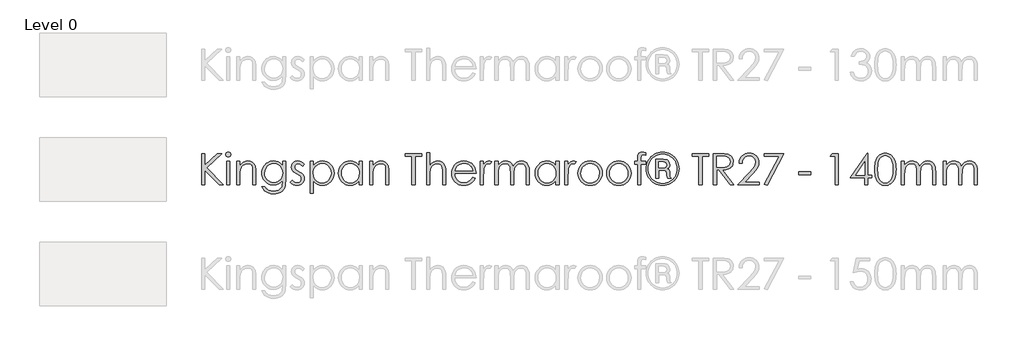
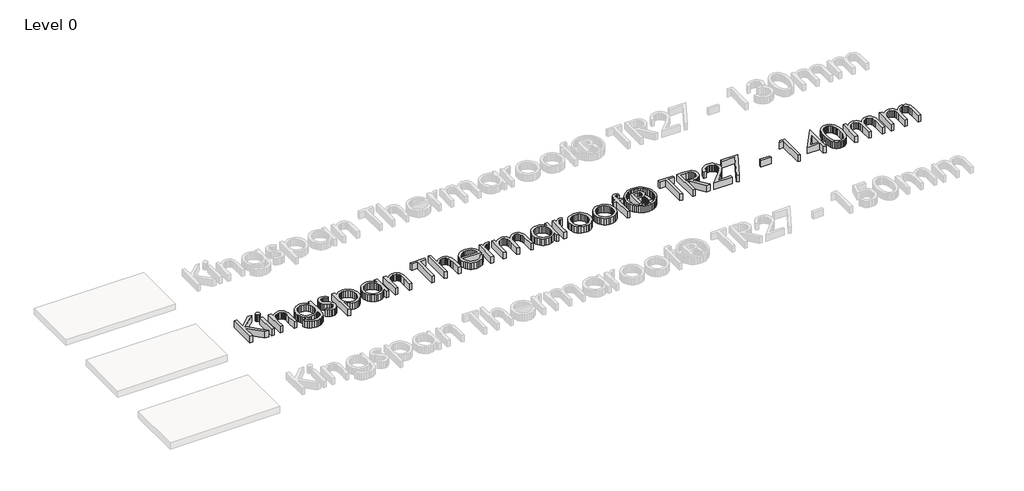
# One storey, part 4 of 12: 1 proxy.
"""IFC4 building model written with IfcOpenShell, lengths in millimetres."""

import ifcopenshell
import ifcopenshell.guid

model = None  # the IFC model being written
_history = None  # IfcOwnerHistory: only IFC2X3 demands one
_inside = {}  # id of a spatial element -> (the spatial element, [elements in it])
_under = {}  # id of a project, library or spatial element -> (it, [spatial elements below it])
_declared = {}  # id of a project -> (the project, [libraries it declares])
_typed = {}  # id of a type object -> (the type object, [elements of that type])
_made_of = {}  # id of a material, layer set ... -> (it, [elements and type objects made of it])


def new_model(schema):
    """Start an empty IFC model of exactly this schema.

    Asked for "IFC4X3", IfcOpenShell would pick the latest addendum, in which some entities
    have other attributes; the version numbers below select the first issue.
    IFC2X3 requires an IfcOwnerHistory on every rooted entity: one is made here for all.
    """
    global model, _history
    if schema == "IFC4X3":
        model = ifcopenshell.file(schema_version=(4, 3, 0, 0))
    else:
        model = ifcopenshell.file(schema=schema)
    _inside.clear()
    _under.clear()
    _declared.clear()
    _typed.clear()
    _made_of.clear()
    _history = None
    if model.schema == "IFC2X3":
        org = make("IfcOrganization", Name="unknown")
        user = make(
            "IfcPersonAndOrganization",
            ThePerson=make("IfcPerson", FamilyName="unknown"),
            TheOrganization=org,
        )
        app = make(
            "IfcApplication",
            ApplicationDeveloper=org,
            Version="unknown",
            ApplicationFullName="unknown",
            ApplicationIdentifier="unknown",
        )
        _history = make(
            "IfcOwnerHistory",
            OwningUser=user,
            OwningApplication=app,
            ChangeAction="ADDED",
            CreationDate=0,
        )
    return model


def make(cls, **values):
    """One entity of the class cls with the attributes given. An attribute that is None is left unset."""
    return model.create_entity(
        cls, **{name: value for name, value in values.items() if value is not None}
    )


def rooted(cls, **values):
    """An entity with a GlobalId (a new one), such as an element, a storey or a relation."""
    return make(cls, GlobalId=ifcopenshell.guid.new(), OwnerHistory=_history, **values)


def si_unit(unit_type, name, prefix=None):
    """IfcSIUnit, for example si_unit("LENGTHUNIT", "METRE", prefix="MILLI")."""
    return make("IfcSIUnit", UnitType=unit_type, Prefix=prefix, Name=name)


def assignment(units):
    """IfcUnitAssignment: the units of a project."""
    return None if units is None else make("IfcUnitAssignment", Units=units)


def point(xyz):
    """IfcCartesianPoint."""
    return None if xyz is None else make("IfcCartesianPoint", Coordinates=xyz)


def direction(xyz):
    """IfcDirection."""
    return None if xyz is None else make("IfcDirection", DirectionRatios=xyz)


def frame(location, z_axis=None, x_axis=None):
    """IfcAxis2Placement3D, a coordinate frame: its origin and axes. An axis left out is left unset."""
    return make(
        "IfcAxis2Placement3D",
        Location=point(location),
        Axis=direction(z_axis),
        RefDirection=direction(x_axis),
    )


def origin():
    """The frame at (0, 0, 0) with its axes left unset."""
    return frame((0.0, 0.0, 0.0))


def origin_with_axes():
    """The frame at (0, 0, 0) with the z axis (0, 0, 1) and the x axis (1, 0, 0) written out."""
    return frame((0.0, 0.0, 0.0), z_axis=(0.0, 0.0, 1.0), x_axis=(1.0, 0.0, 0.0))


def place(relative_to, where):
    """IfcLocalPlacement: puts the frame where relative to a parent placement (None: the world)."""
    return make(
        "IfcLocalPlacement", PlacementRelTo=relative_to, RelativePlacement=where
    )


def context(
    kind, dimensions, precision=None, world=None, true_north=None, identifier=None
):
    """IfcGeometricRepresentationContext, for example the 3D "Model" context."""
    return make(
        "IfcGeometricRepresentationContext",
        ContextIdentifier=identifier,
        ContextType=kind,
        CoordinateSpaceDimension=dimensions,
        Precision=precision,
        WorldCoordinateSystem=world,
        TrueNorth=true_north,
    )


def project(units=None, contexts=None):
    """IfcProject with its units and contexts."""
    return rooted(
        "IfcProject",
        Name="project",
        RepresentationContexts=contexts,
        UnitsInContext=assignment(units),
    )


def spatial(cls, under=None, at=None, **own):
    """A site, building, storey or space (cls), placed at a placement, below another one or the project."""
    s = rooted(cls, ObjectPlacement=at, **own)
    if under is not None:
        _under.setdefault(under.id(), (under, []))[1].append(s)
    return s


def polyline(points):
    """IfcPolyline through the points."""
    return make("IfcPolyline", Points=[point(p) for p in points])


def outline(outer, holes=None, kind="AREA"):
    """IfcArbitraryClosedProfileDef: a profile drawn as a closed curve; with holes, ...WithVoids."""
    if holes is None:
        return make("IfcArbitraryClosedProfileDef", ProfileType=kind, OuterCurve=outer)
    return make(
        "IfcArbitraryProfileDefWithVoids",
        ProfileType=kind,
        OuterCurve=outer,
        InnerCurves=holes,
    )


def extrude(swept, where, along, depth):
    """IfcExtrudedAreaSolid: the profile swept, set in the frame where, extruded along a direction by depth."""
    return make(
        "IfcExtrudedAreaSolid",
        SweptArea=swept,
        Position=where,
        ExtrudedDirection=direction(along),
        Depth=depth,
    )


def shape(context_of_items, identifier, shape_type, items):
    """IfcShapeRepresentation: the items that make up one representation, for example the "Body"."""
    return make(
        "IfcShapeRepresentation",
        ContextOfItems=context_of_items,
        RepresentationIdentifier=identifier,
        RepresentationType=shape_type,
        Items=items,
    )


def made_of(thing, what):
    """Note that an element or type object is made of a material, layer set ...; save() writes the relation."""
    if what is not None:
        _made_of.setdefault(what.id(), (what, []))[1].append(thing)
    return thing


def element(
    cls,
    number,
    at=None,
    inside=None,
    cuts=None,
    type_object=None,
    material=None,
    context=None,
    identifier="Body",
    shape_type=None,
    held_by="IfcProductDefinitionShape",
    body=None,
    shapes=None,
    **own,
):
    """One element of the class cls, such as IfcWall. Its Tag is "e" and its number.

    at: its placement. inside: the storey or other place that contains it. cuts: it is an
    opening in that element (IfcRelVoidsElement). A single representation is given by context,
    identifier, shape_type and body (its items); several are given by shapes. held_by: the class
    of the entity that holds the representations. save() writes the other relations.
    """
    e = rooted(cls, Tag="e%d" % number, ObjectPlacement=at, **own)
    if body is not None:
        shapes = [shape(context, identifier, shape_type, body)]
    if shapes is not None:
        e.Representation = make(held_by, Representations=shapes)
    if inside is not None:
        _inside.setdefault(inside.id(), (inside, []))[1].append(e)
    if cuts is not None:
        rooted(
            "IfcRelVoidsElement", RelatingBuildingElement=cuts, RelatedOpeningElement=e
        )
    if type_object is not None:
        _typed.setdefault(type_object.id(), (type_object, []))[1].append(e)
    return made_of(e, material)


def aggregate(whole, parts):
    """IfcRelAggregates: a whole, such as a stair, and the parts it consists of."""
    return rooted("IfcRelAggregates", RelatingObject=whole, RelatedObjects=parts)


def save(model, path):
    """Write the relations noted so far, then the file.

    IfcRelAggregates (storeys below a building ...), IfcRelContainedInSpatialStructure (elements
    in a storey), IfcRelDefinesByType, IfcRelAssociatesMaterial and IfcRelDeclares: one each for
    every whole, place, type object, material and project.
    """
    for whole, parts in _under.values():
        aggregate(whole, parts)
    for where, things in _inside.values():
        rooted(
            "IfcRelContainedInSpatialStructure",
            RelatedElements=things,
            RelatingStructure=where,
        )
    for kind, things in _typed.values():
        rooted("IfcRelDefinesByType", RelatedObjects=things, RelatingType=kind)
    for what, things in _made_of.values():
        rooted("IfcRelAssociatesMaterial", RelatedObjects=things, RelatingMaterial=what)
    for by, libraries in _declared.values():
        rooted("IfcRelDeclares", RelatingContext=by, RelatedDefinitions=libraries)
    model.write(path)


model = new_model("IFC4")

# Units and contexts
model_context = context("Model", 3, world=origin())
ifc_project = project(units=[si_unit("LENGTHUNIT", "METRE", prefix="MILLI")], contexts=[model_context])

# Site, building, storey
site = spatial("IfcSite", under=ifc_project)
building = spatial("IfcBuilding", under=site)
storey = spatial("IfcBuildingStorey", under=building, Name="Level 0", Elevation=0.0)

# Proxy
placement = place(None, origin())
element("IfcBuildingElementProxy", 1, Name="600mm KI_CenturyGothic", ObjectType="600mm KI_CenturyGothic", at=placement, inside=storey, context=model_context, shape_type="SweptSolid", body=[
    extrude(outline(polyline([(-3852.2663848, -9939.1039085), (-3792.944575, -9939.1039085), (-3792.944575, -10158.3165339), (-3555.1938841, -9939.1039085), (-3471.6181051, -9939.1039085), (-3760.9664119, -10206.0520527), (-3441.9572002, -10532.3220068), (-3520.8984627, -10532.3220068), (-3792.944575, -10254.0965393), (-3792.944575, -10532.3220068), (-3852.2663848, -10532.3220068), (-3852.2663848, -9939.1039085)])), origin_with_axes(), (0.0, 0.0, 1.0), 150.0),
    extrude(outline(polyline([(-3348.1854852, -9909.4430036), (-3329.145347, -9912.7257861), (-3313.1176445, -9922.5741334), (-3302.226531, -9937.0183762), (-3298.5961598, -9954.0888449), (-3302.226531, -9970.9275878), (-3313.1176445, -9985.2945886), (-3329.145347, -9995.1429359), (-3348.1854852, -9998.4257184), (-3366.9938975, -9995.1429359), (-3382.9443581, -9985.2945886), (-3393.8354717, -9970.9275878), (-3397.4658428, -9954.0888449), (-3393.8354717, -9937.0183762), (-3382.9443581, -9922.5741334), (-3366.9938975, -9912.7257861), (-3348.1854852, -9909.4430036)])), origin_with_axes(), (0.0, 0.0, 1.0), 150.0),
    extrude(outline(polyline([(-3377.6919062, -10087.4084331), (-3318.3700964, -10087.4084331), (-3318.3700964, -10532.3220068), (-3377.6919062, -10532.3220068), (-3377.6919062, -10087.4084331)])), origin_with_axes(), (0.0, 0.0, 1.0), 150.0),
    extrude(outline(polyline([(-3189.8395084, -10087.4084331), (-3130.5176986, -10087.4084331), (-3130.5176986, -10166.5041795), (-3096.9946967, -10126.9949273), (-3060.0730495, -10099.3036918), (-3019.7141359, -10082.9670216), (-2975.879335, -10077.5214648), (-2953.4357238, -10079.1000969), (-2932.2955704, -10083.8359934), (-2912.4588747, -10091.7291541), (-2893.9256368, -10102.7795791), (-2877.212412, -10116.5045063), (-2862.835756, -10132.4211736), (-2841.0921499, -10170.8297282), (-2833.6238199, -10195.2092154), (-2828.2892984, -10225.5556426), (-2824.0216812, -10304.1493164), (-2824.0216812, -10532.3220068), (-2883.343491, -10532.3220068), (-2883.343491, -10319.1342527), (-2883.343491, -10216.0935049), (-2884.7290183, -10195.2961126), (-2889.8125035, -10177.2408092), (-2898.2849788, -10161.9275946), (-2910.1464442, -10149.3564689), (-2924.7403432, -10139.5563978), (-2941.4101193, -10132.556347), (-2980.977303, -10126.9563063), (-3005.3471351, -10129.114253), (-3028.4038541, -10135.5880931), (-3050.1474602, -10146.3778266), (-3070.5779533, -10161.4834534), (-3088.6622225, -10179.7656551), (-3103.3671568, -10200.0851129), (-3114.6927562, -10222.4418269), (-3122.6390208, -10246.835797), (-3128.5480292, -10293.9147594), (-3130.5176986, -10368.4146104), (-3130.5176986, -10532.3220068), (-3189.8395084, -10532.3220068), (-3189.8395084, -10087.4084331)])), origin_with_axes(), (0.0, 0.0, 1.0), 150.0),
    extrude(outline(polyline([(-2319.7862977, -10087.4084331), (-2260.4644879, -10087.4084331), (-2260.4644879, -10438.3958079), (-2264.5196897, -10518.6501834), (-2269.588692, -10549.4504069), (-2276.6852953, -10574.0326543), (-2289.9371156, -10602.6459654), (-2307.2924139, -10627.773734), (-2328.7511904, -10649.41596), (-2354.3134448, -10667.5726435), (-2383.3226209, -10681.9348167), (-2415.122162, -10692.1935118), (-2449.7120682, -10698.3487289), (-2487.0923395, -10700.4004679), (-2541.0458345, -10696.3838871), (-2589.206184, -10684.3341444), (-2630.260275, -10665.5064216), (-2662.8949946, -10641.1559001), (-2690.2000204, -10607.8066925), (-2715.2650299, -10561.9829117), (-2655.94322, -10561.9829117), (-2642.4355358, -10583.1520308), (-2627.0933555, -10601.3956115), (-2609.9166791, -10616.7136537), (-2590.9055067, -10629.1061574), (-2569.7894914, -10638.6696751), (-2546.2982864, -10645.5007592), (-2492.1903075, -10650.9656264), (-2438.5071593, -10645.6359326), (-2415.083541, -10638.9738153), (-2393.93856, -10629.646851), (-2359.6624492, -10605.6052972), (-2336.8567664, -10576.1181867), (-2329.3884364, -10557.4787411), (-2324.0539149, -10533.7702931), (-2319.7862977, -10471.1463904), (-2319.7862977, -10448.4372601), (-2354.757586, -10484.2195887), (-2396.6420279, -10510.6170217), (-2443.392712, -10526.8957605), (-2492.9627269, -10532.3220068), (-2522.4063889, -10530.4247516), (-2550.9521133, -10524.7329862), (-2578.5999001, -10515.2467104), (-2605.3497494, -10501.9659244), (-2630.1540674, -10485.4747702), (-2651.9652601, -10466.3573901), (-2670.7833277, -10444.613784), (-2686.6082702, -10420.243952), (-2699.1456025, -10393.9285886), (-2708.1008399, -10366.3483885), (-2713.4739824, -10337.5033515), (-2715.2650299, -10307.3934779), (-2713.3967404, -10277.1049822), (-2707.7918722, -10247.8785632), (-2698.4504251, -10219.7142209), (-2685.3723991, -10192.6119552), (-2668.9971079, -10167.4262552), (-2649.7638648, -10145.0116098), (-2627.67267, -10125.3680189), (-2602.7235235, -10108.4954827), (-2575.9833294, -10094.9443499), (-2548.5189922, -10085.2649693), (-2520.3305117, -10079.4573409), (-2491.4178881, -10077.5214648), (-2444.5320306, -10082.4649489), (-2400.8903346, -10097.2954014), (-2359.6045177, -10123.8666287), (-2319.7862977, -10164.0324375), (-2319.7862977, -10087.4084331)]), holes=[polyline([(-2484.1571458, -10126.9563063), (-2529.0154023, -10132.9811776), (-2570.5908765, -10151.0557916), (-2606.2187212, -10179.7704827), (-2633.2340897, -10217.7155857), (-2650.2659375, -10261.9945277), (-2655.94322, -10309.7107361), (-2653.0080263, -10345.6234105), (-2644.2024452, -10378.2822682), (-2629.5264766, -10407.6873092), (-2608.9801206, -10433.8385334), (-2583.7606272, -10455.2973099), (-2555.0652466, -10470.6250073), (-2522.8939786, -10479.8216258), (-2487.2468234, -10482.8871653), (-2451.3244937, -10479.8457639), (-2419.1001219, -10470.7215597), (-2390.573708, -10455.5145528), (-2365.7452519, -10434.2247431), (-2345.6382095, -10407.9817941), (-2331.2760363, -10377.915369), (-2322.6587323, -10344.0254678), (-2319.7862977, -10306.3120907), (-2325.0773706, -10257.6110476), (-2340.9505892, -10214.3941823), (-2366.4983608, -10178.1677124), (-2400.8130926, -10150.437856), (-2440.9982119, -10132.8266937), (-2484.1571458, -10126.9563063)])]), origin_with_axes(), (0.0, 0.0, 1.0), 150.0),
    extrude(outline(polyline([(-1904.5336289, -10138.6970812), (-1940.9918246, -10176.3911478), (-1962.9575012, -10154.7634047), (-1984.6721416, -10139.3150167), (-2006.1357456, -10130.0459839), (-2027.3483133, -10126.9563063), (-2052.181597, -10131.6294437), (-2073.2300256, -10145.6488558), (-2087.5970264, -10165.886244), (-2092.3860267, -10189.2133099), (-2088.4466878, -10210.7638111), (-2076.628671, -10231.2329251), (-2052.0657341, -10253.4013619), (-2010.2006027, -10279.1229279), (-1958.3326401, -10311.9893733), (-1939.8428507, -10327.8143157), (-1926.315856, -10343.233738), (-1909.9791857, -10375.9070785), (-1904.5336289, -10412.4425161), (-1906.9474396, -10438.5889127), (-1914.1888714, -10462.649777), (-1926.2579245, -10484.6251089), (-1943.1545989, -10504.5149084), (-1963.6719892, -10521.0060626), (-1986.6031901, -10532.7854584), (-2011.9482016, -10539.8530959), (-2039.7070237, -10542.2089751), (-2077.4397114, -10538.3275676), (-2113.3958344, -10526.6833452), (-2145.4512394, -10508.203211), (-2171.4817731, -10483.8140685), (-2135.7959969, -10443.339292), (-2114.0041146, -10464.9670352), (-2091.5749863, -10480.4154232), (-2068.5086121, -10489.684456), (-2044.8049918, -10492.7741336), (-2013.637869, -10487.1354719), (-1987.4914724, -10470.2194871), (-1969.7644472, -10445.6565502), (-1963.8554388, -10417.0770325), (-1967.7561567, -10393.286515), (-1979.4583106, -10372.2767074), (-2005.0253927, -10350.5717222), (-2050.2119275, -10323.7687691), (-2099.762632, -10293.103719), (-2117.441381, -10277.9449883), (-2130.3890611, -10262.9021205), (-2146.3781427, -10230.7694735), (-2151.7078365, -10194.3112779), (-2149.5305794, -10170.2648965), (-2142.9988078, -10148.3330132), (-2132.1125219, -10128.515628), (-2116.8717217, -10110.8127409), (-2098.309518, -10096.2478076), (-2077.4590218, -10085.8442838), (-2054.3202332, -10079.6021695), (-2028.8931521, -10077.5214648), (-1997.9481, -10081.3449408), (-1966.9064954, -10092.8153689), (-1935.7683384, -10111.932749), (-1904.5336289, -10138.6970812)])), origin_with_axes(), (0.0, 0.0, 1.0), 150.0),
    extrude(outline(polyline([(-1795.7769776, -10087.4084331), (-1736.4551678, -10087.4084331), (-1736.4551678, -10168.51247), (-1700.9238754, -10128.2694193), (-1660.4490989, -10099.9216274), (-1614.9922173, -10083.1215054), (-1564.5146096, -10077.5214648), (-1520.0618732, -10081.7601162), (-1478.9305402, -10094.4760706), (-1441.1206107, -10115.6693278), (-1406.6320845, -10145.339888), (-1377.9077381, -10180.977388), (-1357.3903478, -10220.0714648), (-1345.0799137, -10262.6221185), (-1340.9764356, -10308.6293489), (-1345.0412927, -10355.5296893), (-1357.235864, -10398.7513822), (-1377.5601494, -10438.2944278), (-1406.014149, -10474.158826), (-1440.2130179, -10503.9307662), (-1477.7719111, -10525.1964378), (-1518.6908288, -10537.9558408), (-1562.9697708, -10542.2089751), (-1612.6170277, -10536.7441078), (-1658.0545988, -10520.3495061), (-1699.3211052, -10493.1024118), (-1736.4551678, -10455.0800669), (-1736.4551678, -10690.5134996), (-1795.7769776, -10690.5134996), (-1795.7769776, -10087.4084331)]), holes=[polyline([(-1568.5311905, -10126.9563063), (-1602.5852307, -10130.2535716), (-1633.8392507, -10140.1453675), (-1662.2932503, -10156.6316941), (-1687.9472295, -10179.7125512), (-1709.1694525, -10207.6982716), (-1724.3281832, -10238.8991877), (-1733.4234216, -10273.3152995), (-1736.4551678, -10310.9466071), (-1731.048232, -10359.8021341), (-1714.8274246, -10403.4824511), (-1688.5265441, -10440.3268564), (-1652.8793888, -10468.6746483), (-1611.4390881, -10486.7492622), (-1567.7587711, -10492.7741336), (-1525.0632888, -10486.7106413), (-1485.0326535, -10468.5201644), (-1450.2544701, -10439.4192636), (-1423.3163435, -10400.6244993), (-1406.05277, -10355.9593476), (-1400.2982454, -10309.2472844), (-1405.9948385, -10262.3034955), (-1423.0846177, -10217.8700695), (-1449.8103289, -10179.5194464), (-1484.414718, -10150.8240657), (-1524.7157001, -10132.9232462), (-1568.5311905, -10126.9563063)])]), origin_with_axes(), (0.0, 0.0, 1.0), 150.0),
    extrude(outline(polyline([(-807.0801472, -10087.4084331), (-807.0801472, -10532.3220068), (-866.401957, -10532.3220068), (-866.401957, -10456.4704218), (-903.4780882, -10494.3189724), (-944.8797679, -10521.0446836), (-990.4525125, -10536.9179022), (-1040.0418379, -10542.2089751), (-1084.3159523, -10537.9558408), (-1125.2203871, -10525.1964378), (-1162.7551422, -10503.9307662), (-1196.9202178, -10474.158826), (-1225.340424, -10438.2944278), (-1245.6405713, -10398.7513822), (-1257.8206597, -10355.5296893), (-1261.8806892, -10308.6293489), (-1257.7820388, -10262.6221185), (-1245.4860875, -10220.0714648), (-1224.9928353, -10180.977388), (-1196.3022822, -10145.339888), (-1161.8475494, -10115.6693278), (-1124.061758, -10094.4760706), (-1082.9449079, -10081.7601162), (-1038.4969991, -10077.5214648), (-987.7490446, -10083.1215054), (-942.0990581, -10099.9216274), (-921.2051134, -10112.608616), (-901.6242816, -10128.2694193), (-866.401957, -10168.51247), (-866.401957, -10087.4084331), (-807.0801472, -10087.4084331)]), holes=[polyline([(-1034.3259343, -10126.9563063), (-1078.1414247, -10132.9232462), (-1118.4424068, -10150.8240657), (-1153.0467959, -10179.5194464), (-1179.7725071, -10217.8700695), (-1196.8622863, -10262.3034955), (-1202.5588794, -10309.2472844), (-1196.8043548, -10355.9593476), (-1179.5407813, -10400.6244993), (-1152.6026548, -10439.4192636), (-1117.8244713, -10468.5201644), (-1077.6779731, -10486.7106413), (-1034.6349021, -10492.7741336), (-991.0125165, -10486.7492622), (-949.7460102, -10468.6746483), (-914.2726493, -10440.3268564), (-888.0297002, -10403.4824511), (-871.8088928, -10359.8021341), (-866.401957, -10310.9466071), (-869.4337032, -10273.3152995), (-878.5289416, -10238.8991877), (-893.6876723, -10207.6982716), (-914.9098953, -10179.7125512), (-940.5638746, -10156.6316941), (-969.0178742, -10140.1453675), (-1000.2718941, -10130.2535716), (-1034.3259343, -10126.9563063)])]), origin_with_axes(), (0.0, 0.0, 1.0), 150.0),
    extrude(outline(polyline([(-668.662591, -10087.4084331), (-609.3407811, -10087.4084331), (-609.3407811, -10166.5041795), (-575.8177792, -10126.9949273), (-538.896132, -10099.3036918), (-498.5372184, -10082.9670216), (-454.7024175, -10077.5214648), (-432.2588064, -10079.1000969), (-411.1186529, -10083.8359934), (-391.2819572, -10091.7291541), (-372.7487193, -10102.7795791), (-356.0354946, -10116.5045063), (-341.6588385, -10132.4211736), (-319.9152324, -10170.8297282), (-312.4469024, -10195.2092154), (-307.1123809, -10225.5556426), (-302.8447637, -10304.1493164), (-302.8447637, -10532.3220068), (-362.1665735, -10532.3220068), (-362.1665735, -10319.1342527), (-362.1665735, -10216.0935049), (-363.5521008, -10195.2961126), (-368.635586, -10177.2408092), (-377.1080613, -10161.9275946), (-388.9695267, -10149.3564689), (-403.5634257, -10139.5563978), (-420.2332018, -10132.556347), (-459.8003855, -10126.9563063), (-484.1702176, -10129.114253), (-507.2269366, -10135.5880931), (-528.9705427, -10146.3778266), (-549.4010358, -10161.4834534), (-567.485305, -10179.7656551), (-582.1902393, -10200.0851129), (-593.5158387, -10222.4418269), (-601.4621033, -10246.835797), (-607.3711117, -10293.9147594), (-609.3407811, -10368.4146104), (-609.3407811, -10532.3220068), (-668.662591, -10532.3220068), (-668.662591, -10087.4084331)])), origin_with_axes(), (0.0, 0.0, 1.0), 150.0),
    extrude(outline(polyline([(3.6512537, -9988.5387501), (3.6512537, -9939.1039085), (320.0342394, -9939.1039085), (320.0342394, -9988.5387501), (191.5036515, -9988.5387501), (191.5036515, -10532.3220068), (132.1818417, -10532.3220068), (132.1818417, -9988.5387501), (3.6512537, -9988.5387501)])), origin_with_axes(), (0.0, 0.0, 1.0), 150.0),
    extrude(outline(polyline([(409.0169542, -9919.3299719), (468.338764, -9919.3299719), (468.338764, -10168.0490183), (502.1128022, -10128.3466612), (539.1696229, -10100.0761112), (579.470605, -10083.1601264), (622.9771276, -10077.5214648), (645.4207388, -10079.1000969), (666.5608922, -10083.8359934), (686.3975879, -10091.7291541), (704.9308258, -10102.7795791), (721.6440506, -10116.4900235), (736.0207066, -10132.3632421), (757.7643127, -10170.5980023), (765.2326428, -10194.9050753), (770.5671642, -10225.2659853), (774.8347814, -10304.1493164), (774.8347814, -10532.3220068), (715.5129716, -10532.3220068), (715.5129716, -10319.1342527), (714.1226167, -10254.7530958), (709.9515519, -10216.0935049), (696.4342124, -10177.2408092), (686.7210385, -10161.9275946), (675.0381951, -10149.3564689), (661.3953375, -10139.5563978), (645.8021209, -10132.556347), (608.7646107, -10126.9563063), (585.8961689, -10129.114253), (564.2539428, -10135.5880931), (543.8379326, -10146.3778266), (524.6481382, -10161.4834534), (507.659739, -10179.7656551), (493.8479146, -10200.0851129), (483.212665, -10222.4418269), (475.7539902, -10246.835797), (470.1925705, -10293.6830335), (468.338764, -10368.4146104), (468.338764, -10532.3220068), (409.0169542, -10532.3220068), (409.0169542, -9919.3299719)])), origin_with_axes(), (0.0, 0.0, 1.0), 150.0),
    extrude(outline(polyline([(1280.6150037, -10384.0174822), (1328.5050064, -10409.1983546), (1302.8799929, -10451.0827965), (1273.5859872, -10484.0457944), (1240.5071264, -10509.1301143), (1203.5275477, -10527.3785226), (1162.048626, -10538.501362), (1115.4717363, -10542.2089751), (1063.9803281, -10537.7772188), (1018.4172388, -10524.4819499), (978.7824684, -10502.3231684), (945.0760169, -10471.3008743), (918.1765113, -10434.69785), (898.9625788, -10395.796878), (887.4342193, -10354.5979584), (883.5914328, -10311.101091), (886.8742152, -10270.2207943), (896.7225625, -10231.6191348), (913.1364748, -10195.2961126), (936.1159519, -10161.2517276), (972.3038007, -10124.6197376), (1014.1303111, -10098.4540305), (1061.5954832, -10082.7546062), (1114.6993169, -10077.5214648), (1169.3479893, -10082.8897796), (1218.2035163, -10098.9947241), (1261.2658978, -10125.8362982), (1298.5351338, -10163.4145019), (1320.008393, -10195.5857699), (1335.456781, -10231.5418929), (1344.8802977, -10271.282871), (1348.278943, -10314.8087041), (942.9132426, -10314.8087041), (946.6498214, -10352.0634572), (956.1602353, -10385.8133573), (971.4444841, -10416.0584044), (992.502568, -10442.7985985), (1017.86689, -10464.6628951), (1046.0698533, -10480.2802498), (1077.1114579, -10489.6506626), (1110.9917037, -10492.7741336), (1144.5147056, -10489.7616979), (1177.1108043, -10480.7243909), (1206.8489511, -10466.6856684), (1231.7980977, -10448.6689859), (1255.2796474, -10422.5032788), (1280.6150037, -10384.0174822)]), holes=[polyline([(1288.9571332, -10265.3738626), (1274.5322009, -10222.8521747), (1254.7389538, -10189.8312454), (1228.6311782, -10164.3027842), (1195.2626601, -10144.2585008), (1157.3175572, -10131.2818549), (1117.4800267, -10126.9563063), (1085.0577224, -10129.6694295), (1054.9912973, -10137.8087989), (1027.2807514, -10151.3744146), (1001.9260846, -10170.3662765), (985.3866543, -10188.1801989), (970.9906877, -10209.9527707), (958.738185, -10235.6839919), (948.6291461, -10265.3738626), (1288.9571332, -10265.3738626)])]), origin_with_axes(), (0.0, 0.0, 1.0), 150.0),
    extrude(outline(polyline([(1427.3746895, -10087.4084331), (1486.6964993, -10087.4084331), (1486.6964993, -10151.828211), (1512.2442709, -10118.7879712), (1539.1437765, -10095.6733207), (1567.317774, -10082.0594288), (1596.6890217, -10077.5214648), (1620.0160875, -10081.3063198), (1644.8879922, -10092.660885), (1615.3815711, -10134.6805003), (1586.8020534, -10126.9563063), (1560.3853099, -10132.9039357), (1534.8954698, -10150.7468238), (1512.8428959, -10181.1029062), (1496.7379515, -10224.5901183), (1489.2068623, -10282.7146781), (1486.6964993, -10380.1553852), (1486.6964993, -10532.3220068), (1427.3746895, -10532.3220068), (1427.3746895, -10087.4084331)])), origin_with_axes(), (0.0, 0.0, 1.0), 150.0),
    extrude(outline(polyline([(1704.209802, -10087.4084331), (1763.5316118, -10087.4084331), (1763.5316118, -10163.5689858), (1793.1152748, -10127.0721692), (1823.4713571, -10101.9299178), (1866.8813274, -10083.623578), (1912.4540719, -10077.5214648), (1943.2929164, -10080.6690738), (1972.4710592, -10090.111901), (1998.2312461, -10104.7878696), (2018.8162231, -10123.6349029), (2035.5970345, -10149.0668116), (2049.9447249, -10183.4974063), (2064.7220735, -10159.0986085), (2081.247021, -10137.8087989), (2099.5195674, -10119.6279773), (2119.5397127, -10104.5561437), (2140.83435, -10092.7284717), (2162.9303724, -10084.2801345), (2185.82778, -10079.2111322), (2209.5265726, -10077.5214648), (2251.8551557, -10083.3339208), (2271.0497777, -10090.5994907), (2288.9312868, -10100.7712887), (2305.0458865, -10113.5403469), (2318.9397805, -10128.5976975), (2340.065451, -10165.5772763), (2347.3648143, -10188.9526183), (2352.5786453, -10217.5224808), (2356.74971, -10290.2457672), (2356.74971, -10532.3220068), (2297.4279002, -10532.3220068), (2297.4279002, -10286.692638), (2294.9754686, -10225.574953), (2287.6181738, -10187.1277775), (2274.3132497, -10162.661393), (2254.01793, -10143.4860814), (2227.9487753, -10131.0887501), (2197.3223461, -10126.9563063), (2177.6739277, -10128.5059727), (2158.894481, -10133.154972), (2123.9425033, -10151.750969), (2095.2085016, -10180.697386), (2075.434565, -10217.9473115), (2068.743482, -10242.1047282), (2063.9641369, -10273.1752985), (2060.1406609, -10356.0559), (2060.1406609, -10532.3220068), (2000.8188511, -10532.3220068), (2000.8188511, -10301.9865421), (1998.4050405, -10233.5308729), (1991.1636086, -10191.2988422), (1977.9166159, -10165.0558932), (1957.4861228, -10144.5674686), (1931.1659318, -10131.3590969), (1900.2498454, -10126.9563063), (1863.3088876, -10133.0004881), (1828.801051, -10151.1330335), (1799.8353235, -10179.5001359), (1779.5206934, -10216.2479888), (1767.5288822, -10268.0773305), (1763.5316118, -10341.6888992), (1763.5316118, -10532.3220068), (1704.209802, -10532.3220068), (1704.209802, -10087.4084331)])), origin_with_axes(), (0.0, 0.0, 1.0), 150.0),
    extrude(outline(polyline([(2920.3069034, -10087.4084331), (2920.3069034, -10532.3220068), (2860.9850935, -10532.3220068), (2860.9850935, -10456.4704218), (2823.9089624, -10494.3189724), (2782.5072826, -10521.0446836), (2736.9345381, -10536.9179022), (2687.3452127, -10542.2089751), (2643.0710983, -10537.9558408), (2602.1666635, -10525.1964378), (2564.6319083, -10503.9307662), (2530.4668328, -10474.158826), (2502.0466266, -10438.2944278), (2481.7464792, -10398.7513822), (2469.5663908, -10355.5296893), (2465.5063614, -10308.6293489), (2469.6050118, -10262.6221185), (2481.9009631, -10220.0714648), (2502.3942153, -10180.977388), (2531.0847683, -10145.339888), (2565.5395011, -10115.6693278), (2603.3252926, -10094.4760706), (2644.4421427, -10081.7601162), (2688.8900515, -10077.5214648), (2739.638006, -10083.1215054), (2785.2879925, -10099.9216274), (2806.1819372, -10112.608616), (2825.7627689, -10128.2694193), (2860.9850935, -10168.51247), (2860.9850935, -10087.4084331), (2920.3069034, -10087.4084331)]), holes=[polyline([(2693.0611162, -10126.9563063), (2649.2456259, -10132.9232462), (2608.9446437, -10150.8240657), (2574.3402547, -10179.5194464), (2547.6145435, -10217.8700695), (2530.5247643, -10262.3034955), (2524.8281712, -10309.2472844), (2530.5826957, -10355.9593476), (2547.8462693, -10400.6244993), (2574.7843958, -10439.4192636), (2609.5625792, -10468.5201644), (2649.7090775, -10486.7106413), (2692.7521485, -10492.7741336), (2736.374534, -10486.7492622), (2777.6410404, -10468.6746483), (2813.1144013, -10440.3268564), (2839.3573504, -10403.4824511), (2855.5781577, -10359.8021341), (2860.9850935, -10310.9466071), (2857.9533474, -10273.3152995), (2848.858109, -10238.8991877), (2833.6993783, -10207.6982716), (2812.4771553, -10179.7125512), (2786.823176, -10156.6316941), (2758.3691764, -10140.1453675), (2727.1151565, -10130.2535716), (2693.0611162, -10126.9563063)])]), origin_with_axes(), (0.0, 0.0, 1.0), 150.0),
    extrude(outline(polyline([(3029.0635547, -10087.4084331), (3088.3853645, -10087.4084331), (3088.3853645, -10151.828211), (3113.9331361, -10118.7879712), (3140.8326417, -10095.6733207), (3169.0066393, -10082.0594288), (3198.3778869, -10077.5214648), (3221.7049527, -10081.3063198), (3246.5768574, -10092.660885), (3217.0704364, -10134.6805003), (3188.4909186, -10126.9563063), (3162.0741752, -10132.9039357), (3136.584335, -10150.7468238), (3114.5317612, -10181.1029062), (3098.4268167, -10224.5901183), (3090.8957276, -10282.7146781), (3088.3853645, -10380.1553852), (3088.3853645, -10532.3220068), (3029.0635547, -10532.3220068), (3029.0635547, -10087.4084331)])), origin_with_axes(), (0.0, 0.0, 1.0), 150.0),
    extrude(outline(polyline([(3508.7360013, -10077.5214648), (3558.0453247, -10082.1463259), (3602.932547, -10096.0209094), (3643.3976682, -10119.1452151), (3679.4406884, -10151.5192432), (3706.340194, -10186.751223), (3725.5541265, -10225.0921909), (3737.0824861, -10266.5421469), (3740.9252726, -10311.101091), (3736.8604155, -10355.915899), (3724.6658442, -10397.824479), (3704.3415588, -10436.826831), (3675.8875592, -10472.922955), (3641.0514443, -10503.2355888), (3601.580813, -10524.8874701), (3557.4756654, -10537.8785988), (3508.7360013, -10542.2089751), (3459.8611639, -10537.8785988), (3415.6594638, -10524.8874701), (3376.130901, -10503.2355888), (3341.2754757, -10472.922955), (3312.8214761, -10436.826831), (3292.4971906, -10397.824479), (3280.3026194, -10355.915899), (3276.2377623, -10311.101091), (3280.0805488, -10266.7352518), (3291.6089083, -10225.4011587), (3310.8228409, -10187.0988117), (3337.7223464, -10151.828211), (3373.7846771, -10119.3190095), (3414.3077298, -10096.0981513), (3459.2915046, -10082.1656364), (3508.7360013, -10077.5214648)]), holes=[polyline([(3508.5815174, -10126.9563063), (3474.3054066, -10130.3308136), (3442.5396588, -10140.4543353), (3413.2842741, -10157.3268715), (3386.5392524, -10180.9484223), (3364.2356423, -10209.3589733), (3348.3044922, -10240.5985104), (3338.7458021, -10274.6670335), (3335.5595721, -10311.5645426), (3341.3720281, -10359.3000615), (3358.809396, -10403.6369349), (3386.1530427, -10441.427554), (3421.6843351, -10469.5243097), (3463.2211882, -10486.9616776), (3508.5815174, -10492.7741336), (3553.9418466, -10486.9616776), (3595.4786998, -10469.5243097), (3631.0099921, -10441.427554), (3658.3536389, -10403.6369349), (3675.7910068, -10359.3000615), (3681.6034628, -10311.5645426), (3678.4027499, -10274.6670335), (3668.8006112, -10240.5985104), (3652.7970468, -10209.3589733), (3630.3920566, -10180.9484223), (3603.5746206, -10157.3268715), (3574.3337188, -10140.4543353), (3542.669351, -10130.3308136), (3508.5815174, -10126.9563063)])]), origin_with_axes(), (0.0, 0.0, 1.0), 150.0),
    extrude(outline(polyline([(4052.519258, -10077.5214648), (4101.8285814, -10082.1463259), (4146.7158037, -10096.0209094), (4187.180925, -10119.1452151), (4223.2239452, -10151.5192432), (4250.1234507, -10186.751223), (4269.3373833, -10225.0921909), (4280.8657428, -10266.5421469), (4284.7085293, -10311.101091), (4280.6436722, -10355.915899), (4268.4491009, -10397.824479), (4248.1248155, -10436.826831), (4219.6708159, -10472.922955), (4184.834701, -10503.2355888), (4145.3640698, -10524.8874701), (4101.2589221, -10537.8785988), (4052.519258, -10542.2089751), (4003.6444206, -10537.8785988), (3959.4427205, -10524.8874701), (3919.9141578, -10503.2355888), (3885.0587324, -10472.922955), (3856.6047328, -10436.826831), (3836.2804474, -10397.824479), (3824.0858761, -10355.915899), (3820.021019, -10311.101091), (3823.8638055, -10266.7352518), (3835.392165, -10225.4011587), (3854.6060976, -10187.0988117), (3881.5056031, -10151.828211), (3917.5679338, -10119.3190095), (3958.0909865, -10096.0981513), (4003.0747613, -10082.1656364), (4052.519258, -10077.5214648)]), holes=[polyline([(4052.3647741, -10126.9563063), (4018.0886633, -10130.3308136), (3986.3229156, -10140.4543353), (3957.0675308, -10157.3268715), (3930.3225091, -10180.9484223), (3908.018899, -10209.3589733), (3892.0877489, -10240.5985104), (3882.5290589, -10274.6670335), (3879.3428288, -10311.5645426), (3885.1552848, -10359.3000615), (3902.5926527, -10403.6369349), (3929.9362994, -10441.427554), (3965.4675918, -10469.5243097), (4007.004445, -10486.9616776), (4052.3647741, -10492.7741336), (4097.7251033, -10486.9616776), (4139.2619565, -10469.5243097), (4174.7932489, -10441.427554), (4202.1368956, -10403.6369349), (4219.5742635, -10359.3000615), (4225.3867195, -10311.5645426), (4222.1860066, -10274.6670335), (4212.5838679, -10240.5985104), (4196.5803035, -10209.3589733), (4174.1753133, -10180.9484223), (4147.3578773, -10157.3268715), (4118.1169755, -10140.4543353), (4086.4526077, -10130.3308136), (4052.3647741, -10126.9563063)])]), origin_with_axes(), (0.0, 0.0, 1.0), 150.0),
    extrude(outline(polyline([(4561.5436418, -9920.7203268), (4561.5436418, -9972.3179427), (4535.2813822, -9962.2378695), (4513.0357036, -9958.8778451), (4499.3059487, -9960.5578573), (4488.086557, -9965.5978939), (4479.9761533, -9972.8200153), (4475.5733627, -9981.0462819), (4473.0243787, -10027.6231716), (4473.0243787, -10087.4084331), (4561.5436418, -10087.4084331), (4561.5436418, -10136.8432746), (4472.8698948, -10136.8432746), (4472.8698948, -10532.3220068), (4413.2391172, -10532.3220068), (4413.2391172, -10136.8432746), (4353.9173074, -10136.8432746), (4353.9173074, -10087.4084331), (4413.2391172, -10087.4084331), (4413.2391172, -10019.8989776), (4415.3246496, -9980.0614472), (4421.5812467, -9953.5481513), (4432.8392595, -9935.6280212), (4449.9290387, -9921.5699882), (4472.000923, -9912.4747498), (4498.2052511, -9909.4430036), (4527.2482205, -9912.2623344), (4561.5436418, -9920.7203268)])), origin_with_axes(), (0.0, 0.0, 1.0), 150.0),
    extrude(outline(polyline([(5194.3096132, -10225.2080538), (5191.7075254, -10267.1504272), (5183.9012619, -10307.5479617), (5170.8908226, -10346.4006575), (5152.6762077, -10383.7085145), (5129.9284564, -10418.3466969), (5103.3186081, -10449.190369), (5072.8466628, -10476.2395308), (5038.5126205, -10499.4941823), (5001.5958009, -10518.1819042), (4963.3755235, -10531.5302769), (4923.8517884, -10539.5393005), (4883.0245956, -10542.2089751), (4842.2649894, -10539.5537834), (4802.7895305, -10531.5882083), (4764.5982189, -10518.3122499), (4727.6910545, -10499.7259081), (4693.3425293, -10476.5581538), (4662.8271355, -10449.5379577), (4636.1448729, -10418.6653199), (4613.2957415, -10383.9402403), (4594.9797465, -10346.6372109), (4581.896893, -10308.0307239), (4574.0471808, -10268.1207791), (4571.4306101, -10226.9073765), (4574.0471808, -10185.2401776), (4581.896893, -10144.8957468), (4594.9797465, -10105.8740843), (4613.2957415, -10068.1751901), (4636.13039, -10033.1218322), (4662.769204, -10002.0367791), (4693.2121836, -9974.9200305), (4727.4593286, -9951.7715867), (4764.2940787, -9933.2528316), (4802.4998732, -9920.0251494), (4842.0767122, -9912.0885401), (4883.0245956, -9909.4430036), (4923.9531684, -9912.0740572), (4963.4720759, -9919.9672179), (5001.581318, -9933.1224858), (5038.2808947, -9951.5398609), (5072.4025216, -9974.5869247), (5102.7779145, -10001.6312589), (5129.4070733, -10032.6728635), (5152.289998, -10067.7117384), (5170.6735796, -10105.3333908), (5183.8047094, -10144.1233275), (5191.6833873, -10184.0815485), (5194.3096132, -10225.2080538)]), holes=[polyline([(5154.76174, -10225.8259894), (5152.4782752, -10189.6815891), (5145.6278806, -10154.6282313), (5134.2105564, -10120.6659158), (5118.2263025, -10087.7946428), (5098.3220201, -10057.1923517), (5075.1446105, -10030.0369823), (5048.6940737, -10006.3285343), (5018.9704097, -9986.067008), (4987.0115571, -9969.8462006), (4953.8554544, -9958.2599096), (4919.5021017, -9951.308135), (4883.9514988, -9948.9908768), (4848.1353768, -9951.308135), (4813.4489182, -9958.2599096), (4779.892123, -9969.8462006), (4747.4649911, -9986.067008), (4717.3116688, -10006.3285343), (4690.5763024, -10030.0369823), (4667.2588918, -10057.1923517), (4647.359437, -10087.7946428), (4631.4427698, -10120.714192), (4620.0737217, -10154.8213361), (4613.2522929, -10190.116075), (4610.9784833, -10226.5984088), (4613.2522929, -10262.9069481), (4620.0737217, -10297.9892717), (4631.4427698, -10331.8453795), (4647.359437, -10364.4752714), (4667.268547, -10394.8072157), (4690.6149233, -10421.7694803), (4717.398566, -10445.3620653), (4747.619475, -10465.5849707), (4780.0948831, -10481.8057781), (4813.6420231, -10493.3920691), (4848.260895, -10500.3438437), (4883.9514988, -10502.6611019), (4919.3234797, -10500.3293608), (4953.6044181, -10493.3341376), (4986.7943142, -10481.6754323), (5018.8931678, -10465.3532449), (5048.7761433, -10445.0434423), (5075.3184049, -10421.4218916), (5098.5199526, -10394.4885927), (5118.3807864, -10364.2435456), (5134.2974536, -10331.6667575), (5145.6665016, -10297.7382354), (5152.4879304, -10262.4579793), (5154.76174, -10225.8259894)])]), origin_with_axes(), (0.0, 0.0, 1.0), 150.0),
    extrude(outline(polyline([(4749.3960396, -10047.8605599), (4893.5294994, -10047.8605599), (4936.9587801, -10050.4674754), (4966.2141648, -10058.2882218), (4986.3356901, -10072.0179766), (5002.3633927, -10092.3519172), (5012.848986, -10117.9576203), (5016.3441838, -10147.5026623), (5014.722103, -10172.7993976), (5009.8558608, -10194.3112779), (4997.0336988, -10209.566561), (4974.6335362, -10226.289441), (4995.2957552, -10238.9764296), (5007.8475704, -10253.5558458), (5014.2200304, -10274.6622058), (5016.3441838, -10306.9300262), (5016.3441838, -10347.095835), (5021.4035308, -10373.0491268), (5036.581572, -10394.3679022), (5046.0050887, -10403.7914188), (4976.7963106, -10403.7914188), (4967.7590036, -10379.6533126), (4961.9658581, -10351.4213836), (4957.022374, -10307.8569295), (4954.4540795, -10287.329884), (4949.8388735, -10273.9477179), (4942.9836514, -10265.509036), (4933.6953081, -10259.8124429), (4918.0151943, -10256.5682814), (4891.9846606, -10255.4868943), (4808.7178494, -10255.4868943), (4808.7178494, -10403.7914188), (4749.3960396, -10403.7914188), (4749.3960396, -10047.8605599)]), holes=[polyline([(4808.7178494, -10097.2954014), (4808.7178494, -10206.0520527), (4888.5860152, -10206.0520527), (4919.1738234, -10203.7347945), (4938.0208567, -10196.78302), (4946.3340205, -10188.8946868), (4952.2719947, -10178.6697851), (4957.022374, -10151.2102754), (4953.6044181, -10126.9949273), (4943.3505506, -10110.2720473), (4923.6345454, -10100.5395629), (4891.8301767, -10097.2954014), (4808.7178494, -10097.2954014)])]), origin_with_axes(), (0.0, 0.0, 1.0), 150.0),
    extrude(outline(polyline([(5441.4838208, -9988.5387501), (5441.4838208, -9939.1039085), (5757.8668066, -9939.1039085), (5757.8668066, -9988.5387501), (5629.3362186, -9988.5387501), (5629.3362186, -10532.3220068), (5570.0144088, -10532.3220068), (5570.0144088, -9988.5387501), (5441.4838208, -9988.5387501)])), origin_with_axes(), (0.0, 0.0, 1.0), 150.0),
    extrude(outline(polyline([(5846.8495213, -9939.1039085), (5966.5745281, -9939.1039085), (6050.4206538, -9941.034957), (6102.0568906, -9946.8281025), (6127.5370756, -9954.3640193), (6150.5262079, -9965.2309947), (6171.0242877, -9979.4290288), (6189.0313149, -9996.9581215), (6203.6976283, -10017.2582688), (6214.1735664, -10039.7694667), (6220.4591292, -10064.4917151), (6222.5543169, -10091.425014), (6216.7804818, -10135.2791253), (6209.5631881, -10155.1061658), (6199.4589768, -10173.5331961), (6186.6754358, -10190.1740065), (6171.4201527, -10204.6423873), (6133.4943602, -10227.0618604), (6110.0176381, -10234.9984697), (6082.4567484, -10240.7336837), (6015.0824664, -10245.599926), (6232.4412852, -10532.3220068), (6160.4517972, -10532.3220068), (5943.0929784, -10245.599926), (5906.1713311, -10245.599926), (5906.1713311, -10532.3220068), (5846.8495213, -10532.3220068), (5846.8495213, -9939.1039085)]), holes=[polyline([(5906.1713311, -9988.5387501), (5906.1713311, -10196.1650844), (6011.0658855, -10196.78302), (6064.1310982, -10193.8864472), (6101.2844713, -10185.196729), (6127.276384, -10170.1152402), (6146.8572158, -10148.0433559), (6159.1386842, -10120.9893665), (6163.232507, -10090.9615623), (6159.0807528, -10061.7447986), (6146.62549, -10035.2701237), (6127.4308679, -10013.7389329), (6103.0610359, -9999.3526216), (6067.2014653, -9991.242218), (6013.5376276, -9988.5387501), (5906.1713311, -9988.5387501)])]), origin_with_axes(), (0.0, 0.0, 1.0), 150.0),
    extrude(outline(polyline([(6390.632778, -10117.069338), (6331.3109682, -10117.069338), (6335.7958283, -10077.8111221), (6346.9331505, -10042.2218983), (6364.7229348, -10010.3016666), (6389.1651812, -9982.0504271), (6418.5605669, -9958.9357766), (6451.2097694, -9942.425312), (6487.1127885, -9932.5190332), (6526.2696244, -9929.2169402), (6564.7409381, -9932.5142055), (6599.35981, -9942.4060015), (6630.1262402, -9958.892328), (6657.0402286, -9981.9731852), (6678.9045253, -10009.5340748), (6694.52188, -10039.4604989), (6703.8922928, -10071.7524574), (6707.0157637, -10106.4099503), (6700.932961, -10155.2075458), (6682.6845527, -10200.8768428), (6646.902224, -10252.7641159), (6588.2176602, -10320.2156399), (6435.4331031, -10482.8871653), (6716.902732, -10482.8871653), (6716.902732, -10532.3220068), (6311.5370316, -10532.3220068), (6537.5469477, -10291.6361221), (6594.2811525, -10226.1156466), (6626.993114, -10180.021519), (6642.5187439, -10142.6557306), (6647.6939539, -10103.3202727), (6645.4442824, -10078.7138872), (6638.6952679, -10055.8744111), (6627.4469104, -10034.8018444), (6611.6992099, -10015.4961871), (6592.6880375, -9999.3767597), (6571.6492641, -9987.8628831), (6548.5828898, -9980.9545571), (6523.4889146, -9978.6517818), (6497.1542407, -9980.9255914), (6473.1464803, -9987.7470202), (6451.4656333, -9999.1160682), (6432.1116997, -10015.0327354), (6415.8764095, -10035.0528807), (6403.5514925, -10058.7323629), (6395.1369486, -10086.071182), (6390.632778, -10117.069338)])), origin_with_axes(), (0.0, 0.0, 1.0), 150.0),
    extrude(outline(polyline([(6805.8854468, -9939.1039085), (7181.5902423, -9939.1039085), (6865.2072566, -10542.2089751), (6811.2923826, -10519.8088125), (7089.9813016, -9988.5387501), (6805.8854468, -9988.5387501), (6805.8854468, -9939.1039085)])), origin_with_axes(), (0.0, 0.0, 1.0), 150.0),
    extrude(outline(polyline([(7458.4253548, -10285.1477992), (7685.8256258, -10285.1477992), (7685.8256258, -10334.5826407), (7458.4253548, -10334.5826407), (7458.4253548, -10285.1477992)])), origin_with_axes(), (0.0, 0.0, 1.0), 150.0),
    extrude(outline(polyline([(8095.362391, -9939.1039085), (8209.8349459, -9939.1039085), (8209.8349459, -10532.3220068), (8150.5131361, -10532.3220068), (8150.5131361, -9988.5387501), (8061.5304214, -9988.5387501), (8095.362391, -9939.1039085)])), origin_with_axes(), (0.0, 0.0, 1.0), 150.0),
    extrude(outline(polyline([(8761.3423966, -9929.2169402), (8773.3921393, -9929.2169402), (8773.3921393, -10344.469609), (8842.6009174, -10344.469609), (8842.6009174, -10393.9044505), (8773.3921393, -10393.9044505), (8773.3921393, -10532.3220068), (8714.0703294, -10532.3220068), (8714.0703294, -10393.9044505), (8437.2352169, -10393.9044505), (8761.3423966, -9929.2169402)]), holes=[polyline([(8714.0703294, -10344.469609), (8714.0703294, -10097.2954014), (8541.8208035, -10344.469609), (8714.0703294, -10344.469609)])]), origin_with_axes(), (0.0, 0.0, 1.0), 150.0),
    extrude(outline(polyline([(8901.9227272, -10235.8674415), (8903.5013594, -10181.436012), (8908.2372558, -10133.5411817), (8916.1304165, -10092.1829505), (8927.1808415, -10057.3613185), (8941.1085288, -10027.7197241), (8957.6334763, -10001.9016057), (8976.7556841, -9979.9069633), (8998.475152, -9961.7357969), (9022.1691171, -9947.5087971), (9047.2148161, -9937.3466544), (9073.6122491, -9931.2493688), (9101.361416, -9929.2169402), (9129.5643793, -9931.2638516), (9156.3962981, -9937.4045859), (9181.8571726, -9947.6391429), (9205.9470026, -9961.9675227), (9228.1299222, -9980.3848978), (9247.8700654, -10002.8864404), (9265.1674323, -10029.4721506), (9280.0220229, -10060.1420283), (9291.951075, -10095.6588378), (9300.4718265, -10136.7853432), (9305.5842774, -10183.5215444), (9307.2884277, -10235.8674415), (9305.6084155, -10288.0540272), (9300.5683789, -10334.6212617), (9292.1683179, -10375.569145), (9280.4082326, -10410.8976773), (9265.6984707, -10441.4227264), (9248.44938, -10467.9601604), (9228.6609605, -10490.5099792), (9206.3332123, -10509.0721829), (9182.0744155, -10523.5695295), (9156.4928505, -10533.924777), (9129.5885174, -10540.1379256), (9101.361416, -10542.2089751), (9073.6363872, -10540.2006846), (9047.3113685, -10534.1758133), (9022.3863601, -10524.1343611), (8998.8613617, -10510.0763281), (8977.2867224, -10492.0403351), (8958.2127909, -10470.0650032), (8941.6395672, -10444.1503324), (8927.5670512, -10414.2963226), (8916.3476595, -10379.2767582), (8908.3338082, -10337.8654231), (8903.5254975, -10290.0623176), (8901.9227272, -10235.8674415)]), holes=[polyline([(8961.244537, -10235.7129577), (8965.6280171, -10324.0391159), (8971.1073672, -10359.0200594), (8978.7784574, -10387.8795792), (8988.5930114, -10412.1190655), (9000.502753, -10433.2399084), (9014.5076822, -10451.242108), (9030.607799, -10466.1256643), (9065.9073656, -10486.1120162), (9084.3102577, -10491.1086042), (9103.2152225, -10492.7741336), (9122.2070845, -10491.1423976), (9140.5617004, -10486.2471896), (9175.3591944, -10466.6663579), (9191.1165501, -10451.9903893), (9204.8656154, -10434.0702593), (9216.6063903, -10412.9059677), (9226.3388747, -10388.4975147), (9235.8010123, -10355.1386519), (9242.5596821, -10318.5549382), (9247.9666178, -10235.7129577), (9243.1389966, -10154.1068482), (9237.10447, -10119.4155619), (9228.6561329, -10088.798788), (9218.0739871, -10062.1358359), (9205.6380348, -10039.306015), (9191.3482759, -10020.3093255), (9175.2047105, -10005.1457671), (9140.1368698, -9985.2752781), (9121.907772, -9980.3076558), (9103.2152225, -9978.6517818), (9084.1992224, -9980.3076558), (9065.7721922, -9985.2752781), (9030.685041, -10005.1457671), (9014.739408, -10019.9569091), (9000.8117207, -10037.8963496), (8988.9019791, -10058.9640887), (8979.0101832, -10083.1601264), (8971.237713, -10112.0148186), (8965.6859486, -10147.0585212), (8961.244537, -10235.7129577)])]), origin_with_axes(), (0.0, 0.0, 1.0), 150.0),
    extrude(outline(polyline([(9406.1581107, -10087.4084331), (9465.4799205, -10087.4084331), (9465.4799205, -10163.5689858), (9495.0635835, -10127.0721692), (9525.4196659, -10101.9299178), (9568.8296361, -10083.623578), (9614.4023806, -10077.5214648), (9645.2412251, -10080.6690738), (9674.4193679, -10090.111901), (9700.1795548, -10104.7878696), (9720.7645318, -10123.6349029), (9737.5453433, -10149.0668116), (9751.8930336, -10183.4974063), (9766.6703822, -10159.0986085), (9783.1953297, -10137.8087989), (9801.4678761, -10119.6279773), (9821.4880214, -10104.5561437), (9842.7826587, -10092.7284717), (9864.8786811, -10084.2801345), (9887.7760887, -10079.2111322), (9911.4748814, -10077.5214648), (9953.8034644, -10083.3339208), (9972.9980865, -10090.5994907), (9990.8795956, -10100.7712887), (10006.9941953, -10113.5403469), (10020.8880892, -10128.5976975), (10042.0137597, -10165.5772763), (10049.3131231, -10188.9526183), (10054.526954, -10217.5224808), (10058.6980188, -10290.2457672), (10058.6980188, -10532.3220068), (9999.3762089, -10532.3220068), (9999.3762089, -10286.692638), (9996.9237773, -10225.574953), (9989.5664826, -10187.1277775), (9976.2615584, -10162.661393), (9955.9662387, -10143.4860814), (9929.897084, -10131.0887501), (9899.2706549, -10126.9563063), (9879.6222364, -10128.5059727), (9860.8427898, -10133.154972), (9825.890812, -10151.750969), (9797.1568103, -10180.697386), (9777.3828737, -10217.9473115), (9770.6917907, -10242.1047282), (9765.9124457, -10273.1752985), (9762.0889696, -10356.0559), (9762.0889696, -10532.3220068), (9702.7671598, -10532.3220068), (9702.7671598, -10301.9865421), (9700.3533492, -10233.5308729), (9693.1119173, -10191.2988422), (9679.8649246, -10165.0558932), (9659.4344316, -10144.5674686), (9633.1142405, -10131.3590969), (9602.1981541, -10126.9563063), (9565.2571964, -10133.0004881), (9530.7493597, -10151.1330335), (9501.7836323, -10179.5001359), (9481.4690021, -10216.2479888), (9469.4771909, -10268.0773305), (9465.4799205, -10341.6888992), (9465.4799205, -10532.3220068), (9406.1581107, -10532.3220068), (9406.1581107, -10087.4084331)])), origin_with_axes(), (0.0, 0.0, 1.0), 150.0),
    extrude(outline(polyline([(10197.115575, -10087.4084331), (10256.4373848, -10087.4084331), (10256.4373848, -10163.5689858), (10286.0210478, -10127.0721692), (10316.3771302, -10101.9299178), (10359.7871004, -10083.623578), (10405.3598449, -10077.5214648), (10436.1986894, -10080.6690738), (10465.3768322, -10090.111901), (10491.1370191, -10104.7878696), (10511.7219961, -10123.6349029), (10528.5028076, -10149.0668116), (10542.8504979, -10183.4974063), (10557.6278465, -10159.0986085), (10574.152794, -10137.8087989), (10592.4253404, -10119.6279773), (10612.4454857, -10104.5561437), (10633.740123, -10092.7284717), (10655.8361454, -10084.2801345), (10678.733553, -10079.2111322), (10702.4323457, -10077.5214648), (10744.7609287, -10083.3339208), (10763.9555508, -10090.5994907), (10781.8370599, -10100.7712887), (10797.9516596, -10113.5403469), (10811.8455535, -10128.5976975), (10832.9712241, -10165.5772763), (10840.2705874, -10188.9526183), (10845.4844183, -10217.5224808), (10849.6554831, -10290.2457672), (10849.6554831, -10532.3220068), (10790.3336732, -10532.3220068), (10790.3336732, -10286.692638), (10787.8812417, -10225.574953), (10780.5239469, -10187.1277775), (10767.2190227, -10162.661393), (10746.923703, -10143.4860814), (10720.8545483, -10131.0887501), (10690.2281192, -10126.9563063), (10670.5797007, -10128.5059727), (10651.8002541, -10133.154972), (10616.8482763, -10151.750969), (10588.1142747, -10180.697386), (10568.3403381, -10217.9473115), (10561.649255, -10242.1047282), (10556.86991, -10273.1752985), (10553.046434, -10356.0559), (10553.046434, -10532.3220068), (10493.7246241, -10532.3220068), (10493.7246241, -10301.9865421), (10491.3108135, -10233.5308729), (10484.0693816, -10191.2988422), (10470.822389, -10165.0558932), (10450.3918959, -10144.5674686), (10424.0717049, -10131.3590969), (10393.1556184, -10126.9563063), (10356.2146607, -10133.0004881), (10321.706824, -10151.1330335), (10292.7410966, -10179.5001359), (10272.4264664, -10216.2479888), (10260.4346552, -10268.0773305), (10256.4373848, -10341.6888992), (10256.4373848, -10532.3220068), (10197.115575, -10532.3220068), (10197.115575, -10087.4084331)])), origin_with_axes(), (0.0, 0.0, 1.0), 150.0),
])

save(model, "model.ifc")
